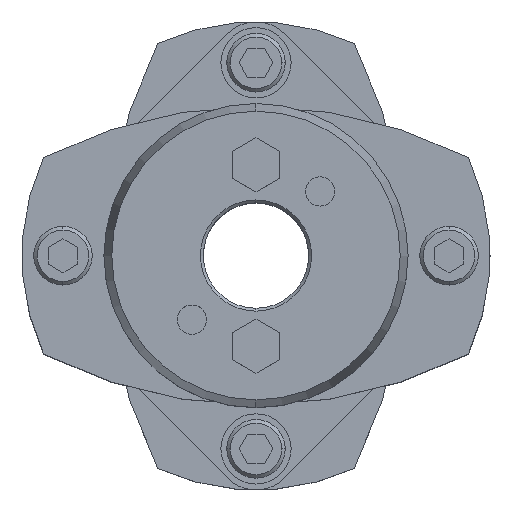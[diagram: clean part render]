
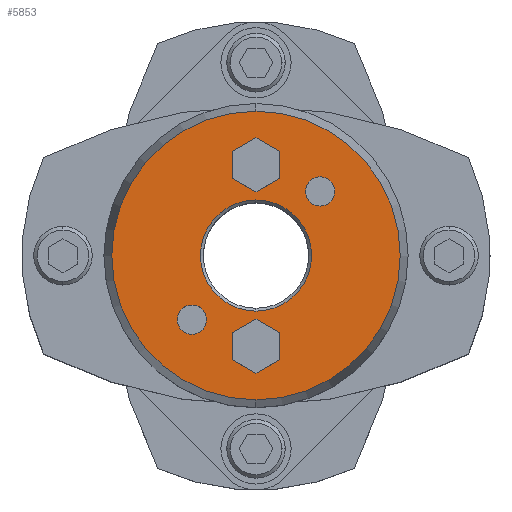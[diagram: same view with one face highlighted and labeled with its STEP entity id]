
A CAD part, top view. The second image highlights one B-rep face of the part: STEP entity #5853.
In plain terms, the highlighted planar face has unit normal (0, 0, 1).
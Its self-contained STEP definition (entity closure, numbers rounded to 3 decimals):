
#1677=CARTESIAN_POINT('',(0.,9.5,45.25));
#1678=VERTEX_POINT('',#1677);
#1694=CARTESIAN_POINT('',(0.,-9.5,45.25));
#1695=VERTEX_POINT('',#1694);
#1702=CARTESIAN_POINT('',(0.,0.,45.25));
#1703=DIRECTION('',(0.0,0.0,1.0));
#1704=DIRECTION('',(0.0,1.0,0.0));
#1705=AXIS2_PLACEMENT_3D('',#1702,#1703,#1704);
#1706=CIRCLE('',#1705,9.5);
#1707=EDGE_CURVE('',#1695,#1678,#1706,.T.);
#1865=CARTESIAN_POINT('',(0.,-24.66,45.25));
#1866=VERTEX_POINT('',#1865);
#1873=CARTESIAN_POINT('',(0.,24.66,45.25));
#1874=VERTEX_POINT('',#1873);
#1875=CARTESIAN_POINT('',(0.,0.,45.25));
#1876=DIRECTION('',(0.0,0.0,-1.0));
#1877=DIRECTION('',(0.0,-1.0,0.0));
#1878=AXIS2_PLACEMENT_3D('',#1875,#1876,#1877);
#1879=CIRCLE('',#1878,24.66);
#1880=EDGE_CURVE('',#1866,#1874,#1879,.T.);
#1975=CARTESIAN_POINT('',(10.96,13.46,45.25));
#1976=VERTEX_POINT('',#1975);
#1992=CARTESIAN_POINT('',(10.96,8.46,45.25));
#1993=VERTEX_POINT('',#1992);
#2000=CARTESIAN_POINT('',(10.96,10.96,45.25));
#2001=DIRECTION('',(0.0,0.0,-1.0));
#2002=DIRECTION('',(0.0,1.0,0.0));
#2003=AXIS2_PLACEMENT_3D('',#2000,#2001,#2002);
#2004=CIRCLE('',#2003,2.5);
#2005=EDGE_CURVE('',#1976,#1993,#2004,.T.);
#2017=CARTESIAN_POINT('',(-10.96,-8.46,45.25));
#2018=VERTEX_POINT('',#2017);
#2034=CARTESIAN_POINT('',(-10.96,-13.46,45.25));
#2035=VERTEX_POINT('',#2034);
#2042=CARTESIAN_POINT('',(-10.96,-10.96,45.25));
#2043=DIRECTION('',(0.0,0.0,-1.0));
#2044=DIRECTION('',(0.0,1.0,0.0));
#2045=AXIS2_PLACEMENT_3D('',#2042,#2043,#2044);
#2046=CIRCLE('',#2045,2.5);
#2047=EDGE_CURVE('',#2018,#2035,#2046,.T.);
#5097=CARTESIAN_POINT('',(0.,-10.881,45.25));
#5098=VERTEX_POINT('',#5097);
#5105=CARTESIAN_POINT('',(-4.,-13.191,45.25));
#5106=VERTEX_POINT('',#5105);
#5107=CARTESIAN_POINT('',(-4.,-13.191,45.25));
#5108=DIRECTION('',(0.866,0.5,0.0));
#5109=VECTOR('',#5108,4.619);
#5110=LINE('',#5107,#5109);
#5111=EDGE_CURVE('',#5106,#5098,#5110,.T.);
#5135=CARTESIAN_POINT('',(4.,-13.191,45.25));
#5136=VERTEX_POINT('',#5135);
#5143=CARTESIAN_POINT('',(0.,-10.881,45.25));
#5144=DIRECTION('',(0.866,-0.5,0.0));
#5145=VECTOR('',#5144,4.619);
#5146=LINE('',#5143,#5145);
#5147=EDGE_CURVE('',#5098,#5136,#5146,.T.);
#5166=CARTESIAN_POINT('',(4.,-17.809,45.25));
#5167=VERTEX_POINT('',#5166);
#5174=CARTESIAN_POINT('',(4.,-13.191,45.25));
#5175=DIRECTION('',(0.0,-1.0,0.0));
#5176=VECTOR('',#5175,4.619);
#5177=LINE('',#5174,#5176);
#5178=EDGE_CURVE('',#5136,#5167,#5177,.T.);
#5197=CARTESIAN_POINT('',(0.,-20.119,45.25));
#5198=VERTEX_POINT('',#5197);
#5205=CARTESIAN_POINT('',(4.,-17.809,45.25));
#5206=DIRECTION('',(-0.866,-0.5,0.0));
#5207=VECTOR('',#5206,4.619);
#5208=LINE('',#5205,#5207);
#5209=EDGE_CURVE('',#5167,#5198,#5208,.T.);
#5228=CARTESIAN_POINT('',(-4.,-17.809,45.25));
#5229=VERTEX_POINT('',#5228);
#5236=CARTESIAN_POINT('',(0.,-20.119,45.25));
#5237=DIRECTION('',(-0.866,0.5,0.0));
#5238=VECTOR('',#5237,4.619);
#5239=LINE('',#5236,#5238);
#5240=EDGE_CURVE('',#5198,#5229,#5239,.T.);
#5258=CARTESIAN_POINT('',(-4.,-17.809,45.25));
#5259=DIRECTION('',(0.0,1.0,0.0));
#5260=VECTOR('',#5259,4.619);
#5261=LINE('',#5258,#5260);
#5262=EDGE_CURVE('',#5229,#5106,#5261,.T.);
#5297=CARTESIAN_POINT('',(0.,20.119,45.25));
#5298=VERTEX_POINT('',#5297);
#5305=CARTESIAN_POINT('',(-4.,17.809,45.25));
#5306=VERTEX_POINT('',#5305);
#5307=CARTESIAN_POINT('',(-4.,17.809,45.25));
#5308=DIRECTION('',(0.866,0.5,0.0));
#5309=VECTOR('',#5308,4.619);
#5310=LINE('',#5307,#5309);
#5311=EDGE_CURVE('',#5306,#5298,#5310,.T.);
#5335=CARTESIAN_POINT('',(4.,17.809,45.25));
#5336=VERTEX_POINT('',#5335);
#5343=CARTESIAN_POINT('',(0.,20.119,45.25));
#5344=DIRECTION('',(0.866,-0.5,0.0));
#5345=VECTOR('',#5344,4.619);
#5346=LINE('',#5343,#5345);
#5347=EDGE_CURVE('',#5298,#5336,#5346,.T.);
#5366=CARTESIAN_POINT('',(4.,13.191,45.25));
#5367=VERTEX_POINT('',#5366);
#5374=CARTESIAN_POINT('',(4.,17.809,45.25));
#5375=DIRECTION('',(0.0,-1.0,0.0));
#5376=VECTOR('',#5375,4.619);
#5377=LINE('',#5374,#5376);
#5378=EDGE_CURVE('',#5336,#5367,#5377,.T.);
#5397=CARTESIAN_POINT('',(0.,10.881,45.25));
#5398=VERTEX_POINT('',#5397);
#5405=CARTESIAN_POINT('',(4.,13.191,45.25));
#5406=DIRECTION('',(-0.866,-0.5,0.0));
#5407=VECTOR('',#5406,4.619);
#5408=LINE('',#5405,#5407);
#5409=EDGE_CURVE('',#5367,#5398,#5408,.T.);
#5428=CARTESIAN_POINT('',(-4.,13.191,45.25));
#5429=VERTEX_POINT('',#5428);
#5436=CARTESIAN_POINT('',(0.,10.881,45.25));
#5437=DIRECTION('',(-0.866,0.5,0.0));
#5438=VECTOR('',#5437,4.619);
#5439=LINE('',#5436,#5438);
#5440=EDGE_CURVE('',#5398,#5429,#5439,.T.);
#5458=CARTESIAN_POINT('',(-4.,13.191,45.25));
#5459=DIRECTION('',(0.0,1.0,0.0));
#5460=VECTOR('',#5459,4.619);
#5461=LINE('',#5458,#5460);
#5462=EDGE_CURVE('',#5429,#5306,#5461,.T.);
#5488=CARTESIAN_POINT('',(-10.96,-10.96,45.25));
#5489=DIRECTION('',(0.0,0.0,-1.0));
#5490=DIRECTION('',(0.0,1.0,0.0));
#5491=AXIS2_PLACEMENT_3D('',#5488,#5489,#5490);
#5492=CIRCLE('',#5491,2.5);
#5493=EDGE_CURVE('',#2035,#2018,#5492,.T.);
#5522=CARTESIAN_POINT('',(10.96,10.96,45.25));
#5523=DIRECTION('',(0.0,0.0,-1.0));
#5524=DIRECTION('',(0.0,1.0,0.0));
#5525=AXIS2_PLACEMENT_3D('',#5522,#5523,#5524);
#5526=CIRCLE('',#5525,2.5);
#5527=EDGE_CURVE('',#1993,#1976,#5526,.T.);
#5800=CARTESIAN_POINT('',(0.,0.,45.25));
#5801=DIRECTION('',(0.0,0.0,-1.0));
#5802=DIRECTION('',(0.0,-1.0,0.0));
#5803=AXIS2_PLACEMENT_3D('',#5800,#5801,#5802);
#5804=CIRCLE('',#5803,24.66);
#5805=EDGE_CURVE('',#1874,#1866,#5804,.T.);
#5810=CARTESIAN_POINT('',(0.,2.364,45.25));
#5811=DIRECTION('',(0.0,0.0,1.0));
#5812=DIRECTION('',(0.0,1.0,0.0));
#5813=AXIS2_PLACEMENT_3D('',#5810,#5811,#5812);
#5814=PLANE('',#5813);
#5815=ORIENTED_EDGE('',*,*,#5805,.F.);
#5816=ORIENTED_EDGE('',*,*,#1880,.F.);
#5817=EDGE_LOOP('',(#5815,#5816));
#5818=FACE_OUTER_BOUND('',#5817,.T.);
#5819=ORIENTED_EDGE('',*,*,#5111,.T.);
#5820=ORIENTED_EDGE('',*,*,#5147,.T.);
#5821=ORIENTED_EDGE('',*,*,#5178,.T.);
#5822=ORIENTED_EDGE('',*,*,#5209,.T.);
#5823=ORIENTED_EDGE('',*,*,#5240,.T.);
#5824=ORIENTED_EDGE('',*,*,#5262,.T.);
#5825=EDGE_LOOP('',(#5819,#5820,#5821,#5822,#5823,#5824));
#5826=FACE_BOUND('',#5825,.T.);
#5827=ORIENTED_EDGE('',*,*,#5311,.T.);
#5828=ORIENTED_EDGE('',*,*,#5347,.T.);
#5829=ORIENTED_EDGE('',*,*,#5378,.T.);
#5830=ORIENTED_EDGE('',*,*,#5409,.T.);
#5831=ORIENTED_EDGE('',*,*,#5440,.T.);
#5832=ORIENTED_EDGE('',*,*,#5462,.T.);
#5833=EDGE_LOOP('',(#5827,#5828,#5829,#5830,#5831,#5832));
#5834=FACE_BOUND('',#5833,.T.);
#5835=ORIENTED_EDGE('',*,*,#2047,.T.);
#5836=ORIENTED_EDGE('',*,*,#5493,.T.);
#5837=EDGE_LOOP('',(#5835,#5836));
#5838=FACE_BOUND('',#5837,.T.);
#5839=ORIENTED_EDGE('',*,*,#2005,.T.);
#5840=ORIENTED_EDGE('',*,*,#5527,.T.);
#5841=EDGE_LOOP('',(#5839,#5840));
#5842=FACE_BOUND('',#5841,.T.);
#5843=ORIENTED_EDGE('',*,*,#1707,.F.);
#5844=CARTESIAN_POINT('',(0.,0.,45.25));
#5845=DIRECTION('',(0.0,0.0,1.0));
#5846=DIRECTION('',(0.0,1.0,0.0));
#5847=AXIS2_PLACEMENT_3D('',#5844,#5845,#5846);
#5848=CIRCLE('',#5847,9.5);
#5849=EDGE_CURVE('',#1678,#1695,#5848,.T.);
#5850=ORIENTED_EDGE('',*,*,#5849,.F.);
#5851=EDGE_LOOP('',(#5843,#5850));
#5852=FACE_BOUND('',#5851,.T.);
#5853=ADVANCED_FACE('',(#5818,#5826,#5834,#5838,#5842,#5852),#5814,.T.);
